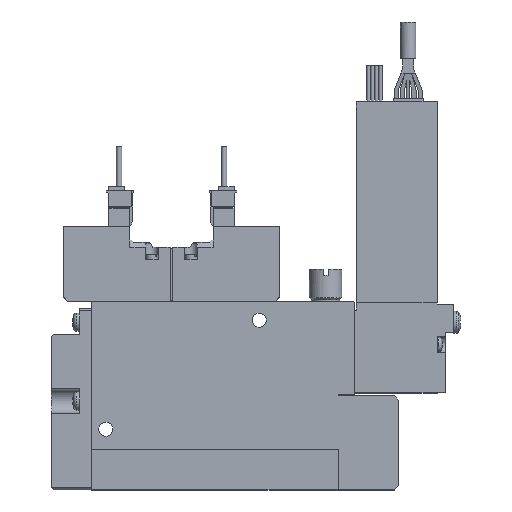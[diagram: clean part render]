
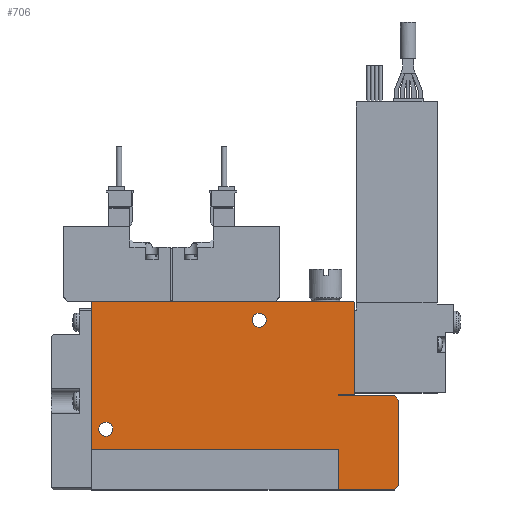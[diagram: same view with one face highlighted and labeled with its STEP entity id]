
A CAD part, top view. The second image highlights one B-rep face of the part: STEP entity #706.
In plain terms, the highlighted planar face has unit normal (0, 0, 1).
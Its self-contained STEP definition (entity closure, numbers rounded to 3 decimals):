
#706=ADVANCED_FACE('',(#1596,#1597,#1598),#1599,.F.);
#1596=FACE_OUTER_BOUND('',#2558,.T.);
#1597=FACE_BOUND('',#2559,.T.);
#1598=FACE_BOUND('',#2560,.T.);
#1599=PLANE('',#2561);
#2558=EDGE_LOOP('',(#5778,#5779,#5780,#5781,#5782,#5783,#5784,#5785,#5786,#5787,#5788,#5789,#5790,#5791));
#2559=EDGE_LOOP('',(#5792));
#2560=EDGE_LOOP('',(#5793));
#2561=AXIS2_PLACEMENT_3D('',#5794,#5795,#5796);
#5778=ORIENTED_EDGE('',*,*,#7201,.T.);
#5779=ORIENTED_EDGE('',*,*,#7098,.F.);
#5780=ORIENTED_EDGE('',*,*,#7137,.F.);
#5781=ORIENTED_EDGE('',*,*,#7199,.T.);
#5782=ORIENTED_EDGE('',*,*,#7112,.T.);
#5783=ORIENTED_EDGE('',*,*,#7207,.T.);
#5784=ORIENTED_EDGE('',*,*,#7146,.T.);
#5785=ORIENTED_EDGE('',*,*,#7208,.T.);
#5786=ORIENTED_EDGE('',*,*,#7195,.T.);
#5787=ORIENTED_EDGE('',*,*,#7210,.T.);
#5788=ORIENTED_EDGE('',*,*,#7211,.T.);
#5789=ORIENTED_EDGE('',*,*,#7202,.T.);
#5790=ORIENTED_EDGE('',*,*,#7150,.T.);
#5791=ORIENTED_EDGE('',*,*,#7163,.T.);
#5792=ORIENTED_EDGE('',*,*,#7157,.F.);
#5793=ORIENTED_EDGE('',*,*,#7212,.F.);
#5794=CARTESIAN_POINT('',(0.0,0.0,5.0));
#5795=DIRECTION('',(0.0,0.0,-1.0));
#5796=DIRECTION('',(0.0,-1.0,0.0));
#7098=EDGE_CURVE('',#8804,#8805,#8806,.T.);
#7112=EDGE_CURVE('',#8833,#8831,#8834,.T.);
#7137=EDGE_CURVE('',#8878,#8804,#8880,.T.);
#7146=EDGE_CURVE('',#8897,#8895,#8898,.T.);
#7150=EDGE_CURVE('',#8905,#8903,#8906,.T.);
#7157=EDGE_CURVE('',#8918,#8918,#8919,.T.);
#7163=EDGE_CURVE('',#8903,#8927,#8929,.T.);
#7195=EDGE_CURVE('',#8978,#8976,#8979,.T.);
#7199=EDGE_CURVE('',#8878,#8833,#8984,.T.);
#7201=EDGE_CURVE('',#8927,#8805,#8986,.T.);
#7202=EDGE_CURVE('',#8987,#8905,#8988,.T.);
#7207=EDGE_CURVE('',#8831,#8897,#8993,.T.);
#7208=EDGE_CURVE('',#8895,#8978,#8994,.T.);
#7210=EDGE_CURVE('',#8976,#8995,#8997,.T.);
#7211=EDGE_CURVE('',#8995,#8987,#8998,.T.);
#7212=EDGE_CURVE('',#8999,#8999,#9000,.T.);
#8804=VERTEX_POINT('',#11566);
#8805=VERTEX_POINT('',#11567);
#8806=LINE('',#11568,#11569);
#8831=VERTEX_POINT('',#11604);
#8833=VERTEX_POINT('',#11607);
#8834=LINE('',#11608,#11609);
#8878=VERTEX_POINT('',#11672);
#8880=LINE('',#11675,#11676);
#8895=VERTEX_POINT('',#11697);
#8897=VERTEX_POINT('',#11700);
#8898=LINE('',#11701,#11702);
#8903=VERTEX_POINT('',#11709);
#8905=VERTEX_POINT('',#11712);
#8906=LINE('',#11713,#11714);
#8918=VERTEX_POINT('',#11729);
#8919=CIRCLE('',#11730,1.75);
#8927=VERTEX_POINT('',#11742);
#8929=LINE('',#11745,#11746);
#8976=VERTEX_POINT('',#11815);
#8978=VERTEX_POINT('',#11818);
#8979=LINE('',#11819,#11820);
#8984=LINE('',#11827,#11828);
#8986=LINE('',#11831,#11832);
#8987=VERTEX_POINT('',#11833);
#8988=LINE('',#11834,#11835);
#8993=LINE('',#11844,#11845);
#8994=LINE('',#11846,#11847);
#8995=VERTEX_POINT('',#11848);
#8997=LINE('',#11851,#11852);
#8998=LINE('',#11853,#11854);
#8999=VERTEX_POINT('',#11855);
#9000=CIRCLE('',#11856,1.75);
#11566=CARTESIAN_POINT('',(61.1,10.1,5.0));
#11567=CARTESIAN_POINT('',(0.0,10.1,5.0));
#11568=CARTESIAN_POINT('',(61.1,10.1,5.0));
#11569=VECTOR('',#13380,1.0);
#11604=CARTESIAN_POINT('',(76.0,1.0,5.0));
#11607=CARTESIAN_POINT('',(75.0,0.0,5.0));
#11608=CARTESIAN_POINT('',(75.0,0.0,5.0));
#11609=VECTOR('',#13398,1.0);
#11672=CARTESIAN_POINT('',(61.1,0.0,5.0));
#11675=CARTESIAN_POINT('',(61.1,0.0,5.0));
#11676=VECTOR('',#13431,1.0);
#11697=CARTESIAN_POINT('',(75.0,23.25,5.0));
#11700=CARTESIAN_POINT('',(76.0,22.25,5.0));
#11701=CARTESIAN_POINT('',(76.0,22.25,5.0));
#11702=VECTOR('',#13442,1.0);
#11709=CARTESIAN_POINT('',(0.2,46.6,5.0));
#11712=CARTESIAN_POINT('',(64.8,46.6,5.0));
#11713=CARTESIAN_POINT('',(64.8,46.6,5.0));
#11714=VECTOR('',#13446,1.0);
#11729=CARTESIAN_POINT('',(5.25,15.0,5.0));
#11730=AXIS2_PLACEMENT_3D('',#13459,#13460,#13461);
#11742=CARTESIAN_POINT('',(0.0,46.4,5.0));
#11745=CARTESIAN_POINT('',(0.2,46.6,5.0));
#11746=VECTOR('',#13467,1.0);
#11815=CARTESIAN_POINT('',(61.0,23.5,5.0));
#11818=CARTESIAN_POINT('',(61.0,23.25,5.0));
#11819=CARTESIAN_POINT('',(61.0,23.25,5.0));
#11820=VECTOR('',#13515,1.0);
#11827=CARTESIAN_POINT('',(0.0,0.0,5.0));
#11828=VECTOR('',#13521,1.0);
#11831=CARTESIAN_POINT('',(0.0,46.4,5.0));
#11832=VECTOR('',#13523,1.0);
#11833=CARTESIAN_POINT('',(65.0,46.4,5.0));
#11834=CARTESIAN_POINT('',(65.0,46.4,5.0));
#11835=VECTOR('',#13524,1.0);
#11844=CARTESIAN_POINT('',(76.0,1.0,5.0));
#11845=VECTOR('',#13529,1.0);
#11846=CARTESIAN_POINT('',(75.0,23.25,5.0));
#11847=VECTOR('',#13530,1.0);
#11848=CARTESIAN_POINT('',(65.0,23.5,5.0));
#11851=CARTESIAN_POINT('',(61.0,23.5,5.0));
#11852=VECTOR('',#13532,1.0);
#11853=CARTESIAN_POINT('',(65.0,23.5,5.0));
#11854=VECTOR('',#13533,1.0);
#11855=CARTESIAN_POINT('',(43.25,42.0,5.0));
#11856=AXIS2_PLACEMENT_3D('',#13534,#13535,#13536);
#13380=DIRECTION('',(-1.0,0.0,0.0));
#13398=DIRECTION('',(0.707,0.707,0.0));
#13431=DIRECTION('',(0.0,1.0,0.0));
#13442=DIRECTION('',(-0.707,0.707,0.0));
#13446=DIRECTION('',(-1.0,0.0,0.0));
#13459=CARTESIAN_POINT('',(3.5,15.0,5.0));
#13460=DIRECTION('',(0.0,0.0,1.0));
#13461=DIRECTION('',(1.0,0.0,0.0));
#13467=DIRECTION('',(-0.707,-0.707,0.0));
#13515=DIRECTION('',(0.0,1.0,0.0));
#13521=DIRECTION('',(1.0,0.0,0.0));
#13523=DIRECTION('',(0.0,-1.0,0.0));
#13524=DIRECTION('',(-0.707,0.707,0.0));
#13529=DIRECTION('',(0.0,1.0,0.0));
#13530=DIRECTION('',(-1.0,0.0,0.0));
#13532=DIRECTION('',(1.0,0.,0.0));
#13533=DIRECTION('',(0.0,1.0,0.0));
#13534=CARTESIAN_POINT('',(41.5,42.0,5.0));
#13535=DIRECTION('',(0.0,0.0,1.0));
#13536=DIRECTION('',(1.0,0.0,0.0));
